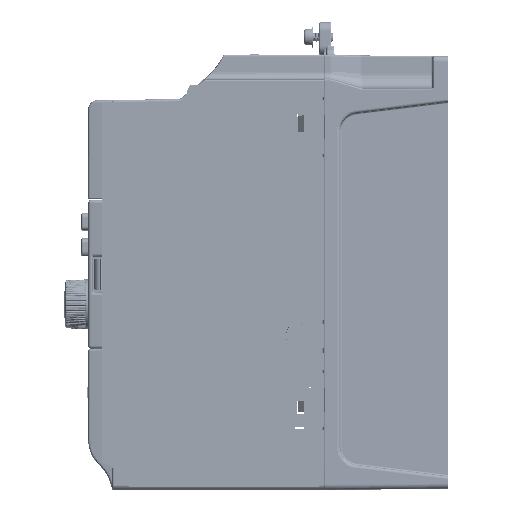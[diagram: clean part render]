
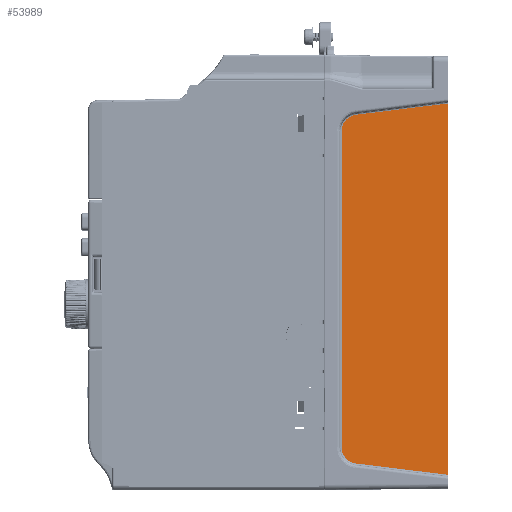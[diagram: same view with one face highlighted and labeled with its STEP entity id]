
A CAD part, left-side view. The second image highlights one B-rep face of the part: STEP entity #53989.
In plain terms, the highlighted planar face has unit normal (-1, -0.009, 0).
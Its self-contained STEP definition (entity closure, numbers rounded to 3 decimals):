
#18135=DIRECTION('',(-0.009,0.993,0.122));
#18136=VECTOR('',#18135,30.906);
#18137=CARTESIAN_POINT('',(2.991,1.,
-125.917));
#18138=LINE('',#18137,#18136);
#18139=CARTESIAN_POINT('',(2.729,31.005,
-116.692));
#18140=DIRECTION('',(1.,0.009,0.));
#18141=DIRECTION('',(-0.001,0.122,-0.993));
#18142=AXIS2_PLACEMENT_3D('',#18139,#18140,#18141);
#18144=CARTESIAN_POINT('',(2.729,31.005,
-11.358));
#18145=DIRECTION('',(1.,0.009,0.));
#18146=DIRECTION('',(-0.009,1.,0.));
#18147=AXIS2_PLACEMENT_3D('',#18144,#18145,#18146);
#18149=DIRECTION('',(0.009,-0.993,0.122));
#18150=VECTOR('',#18149,30.906);
#18151=CARTESIAN_POINT('',(2.724,31.675,
-5.899));
#18152=LINE('',#18151,#18150);
#18153=DIRECTION('',(0.,0.,-1.));
#18154=VECTOR('',#18153,123.784);
#18155=CARTESIAN_POINT('',(2.991,1.,-2.133));
#18156=LINE('',#18155,#18154);
#18157=CARTESIAN_POINT('',(2.991,1.,-125.917));
#18271=DIRECTION('',(0.,0.,-1.));
#18272=VECTOR('',#18271,105.333);
#18273=CARTESIAN_POINT('',(2.681,36.504,
-11.358));
#18274=LINE('',#18273,#18272);
#22405=VERTEX_POINT('',#18157);
#22406=CARTESIAN_POINT('',(2.991,1.,-2.133));
#22407=VERTEX_POINT('',#22406);
#25105=CARTESIAN_POINT('',(2.724,31.675,
-5.899));
#25106=VERTEX_POINT('',#25105);
#25107=CARTESIAN_POINT('',(2.724,31.675,
-122.151));
#25108=VERTEX_POINT('',#25107);
#25109=CARTESIAN_POINT('',(2.681,36.504,
-116.692));
#25110=VERTEX_POINT('',#25109);
#25111=CARTESIAN_POINT('',(2.681,36.504,
-11.358));
#25112=VERTEX_POINT('',#25111);
#53972=CARTESIAN_POINT('',(3.,0.,-128.845));
#53973=DIRECTION('',(-1.,-0.009,0.));
#53974=DIRECTION('',(0.,0.,-1.));
#53975=AXIS2_PLACEMENT_3D('',#53972,#53973,#53974);
#53976=PLANE('',#53975);
#53978=ORIENTED_EDGE('',*,*,#53977,.T.);
#53980=ORIENTED_EDGE('',*,*,#53979,.T.);
#53982=ORIENTED_EDGE('',*,*,#53981,.F.);
#53984=ORIENTED_EDGE('',*,*,#53983,.T.);
#53985=ORIENTED_EDGE('',*,*,#53963,.T.);
#53986=ORIENTED_EDGE('',*,*,#32153,.T.);
#53987=EDGE_LOOP('',(#53978,#53980,#53982,#53984,#53985,#53986));
#53988=FACE_OUTER_BOUND('',#53987,.F.);
#53989=ADVANCED_FACE('',(#53988),#53976,.T.);
#18143=CIRCLE('',#18142,5.5);
#18148=CIRCLE('',#18147,5.5);
#32153=EDGE_CURVE('',#22407,#22405,#18156,.T.);
#53963=EDGE_CURVE('',#25106,#22407,#18152,.T.);
#53977=EDGE_CURVE('',#22405,#25108,#18138,.T.);
#53979=EDGE_CURVE('',#25108,#25110,#18143,.T.);
#53981=EDGE_CURVE('',#25112,#25110,#18274,.T.);
#53983=EDGE_CURVE('',#25112,#25106,#18148,.T.);
